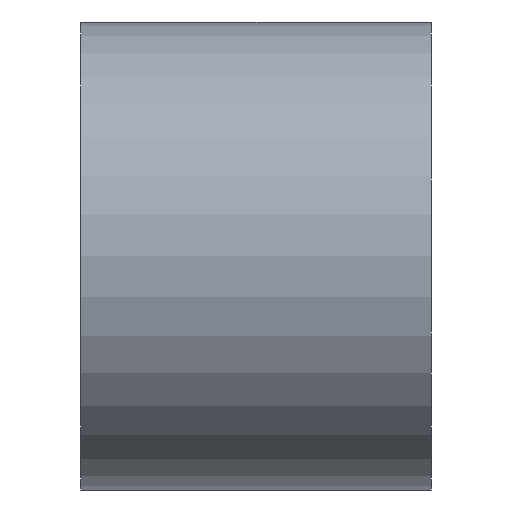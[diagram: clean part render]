
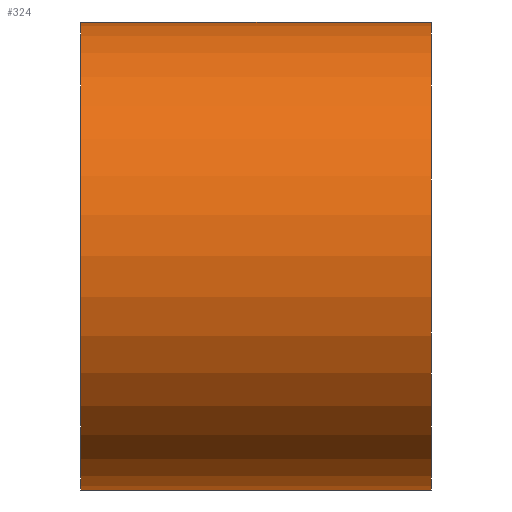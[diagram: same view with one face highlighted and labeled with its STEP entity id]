
A CAD part, left-side view. The second image highlights one B-rep face of the part: STEP entity #324.
In plain terms, the highlighted cylindrical face has radius 9.042 mm (diameter 18.085 mm), a partial arc.
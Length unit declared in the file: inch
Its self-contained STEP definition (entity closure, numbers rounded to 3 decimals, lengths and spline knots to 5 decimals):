
#4 = AXIS2_PLACEMENT_3D ( 'NONE', #373, #280, #543 ) ;
#7 = VECTOR ( 'NONE', #293, 39.37008 ) ;
#10 = CARTESIAN_POINT ( 'NONE',  ( -1.201, 0.433, 0.356 ) ) ;
#16 = EDGE_CURVE ( 'NONE', #241, #183, #278, .T. ) ;
#23 = AXIS2_PLACEMENT_3D ( 'NONE', #305, #260, #476 ) ;
#24 = EDGE_CURVE ( 'NONE', #381, #489, #349, .T. ) ;
#58 = ORIENTED_EDGE ( 'NONE', *, *, #226, .F. ) ;
#63 = DIRECTION ( 'NONE',  ( 0., -1., 0. ) ) ;
#66 = CARTESIAN_POINT ( 'NONE',  ( -1.201, -0.1, 0. ) ) ;
#72 = VECTOR ( 'NONE', #411, 39.37008 ) ;
#92 = CYLINDRICAL_SURFACE ( 'NONE', #23, 0.356 ) ;
#100 = AXIS2_PLACEMENT_3D ( 'NONE', #66, #63, #145 ) ;
#107 = CARTESIAN_POINT ( 'NONE',  ( -1.201, 0.433, -0.356 ) ) ;
#145 = DIRECTION ( 'NONE',  ( 0., 0., -1. ) ) ;
#158 = LINE ( 'NONE', #204, #7 ) ;
#167 = CARTESIAN_POINT ( 'NONE',  ( -1.201, -0.1, -0.356 ) ) ;
#183 = VERTEX_POINT ( 'NONE', #167 ) ;
#204 = CARTESIAN_POINT ( 'NONE',  ( -1.201, 0.433, -0.356 ) ) ;
#216 = CARTESIAN_POINT ( 'NONE',  ( -1.201, 0.433, 0.356 ) ) ;
#226 = EDGE_CURVE ( 'NONE', #489, #241, #487, .T. ) ;
#228 = ORIENTED_EDGE ( 'NONE', *, *, #16, .F. ) ;
#241 = VERTEX_POINT ( 'NONE', #481 ) ;
#246 = EDGE_LOOP ( 'NONE', ( #319, #228, #58, #311 ) ) ;
#260 = DIRECTION ( 'NONE',  ( 0., -1., 0. ) ) ;
#278 = CIRCLE ( 'NONE', #100, 0.356 ) ;
#280 = DIRECTION ( 'NONE',  ( 0., 1., 0. ) ) ;
#293 = DIRECTION ( 'NONE',  ( 0., -1., 0. ) ) ;
#305 = CARTESIAN_POINT ( 'NONE',  ( -1.201, 0.433, 0. ) ) ;
#311 = ORIENTED_EDGE ( 'NONE', *, *, #24, .F. ) ;
#319 = ORIENTED_EDGE ( 'NONE', *, *, #427, .T. ) ;
#324 = ADVANCED_FACE ( 'NONE', ( #443 ), #92, .T. ) ;
#349 = CIRCLE ( 'NONE', #4, 0.356 ) ;
#373 = CARTESIAN_POINT ( 'NONE',  ( -1.201, 0.433, 0. ) ) ;
#381 = VERTEX_POINT ( 'NONE', #107 ) ;
#411 = DIRECTION ( 'NONE',  ( 0., -1., 0. ) ) ;
#427 = EDGE_CURVE ( 'NONE', #381, #183, #158, .T. ) ;
#443 = FACE_OUTER_BOUND ( 'NONE', #246, .T. ) ;
#476 = DIRECTION ( 'NONE',  ( 0., 0., -1. ) ) ;
#481 = CARTESIAN_POINT ( 'NONE',  ( -1.201, -0.1, 0.356 ) ) ;
#487 = LINE ( 'NONE', #10, #72 ) ;
#489 = VERTEX_POINT ( 'NONE', #216 ) ;
#543 = DIRECTION ( 'NONE',  ( 1., 0., 0. ) ) ;
